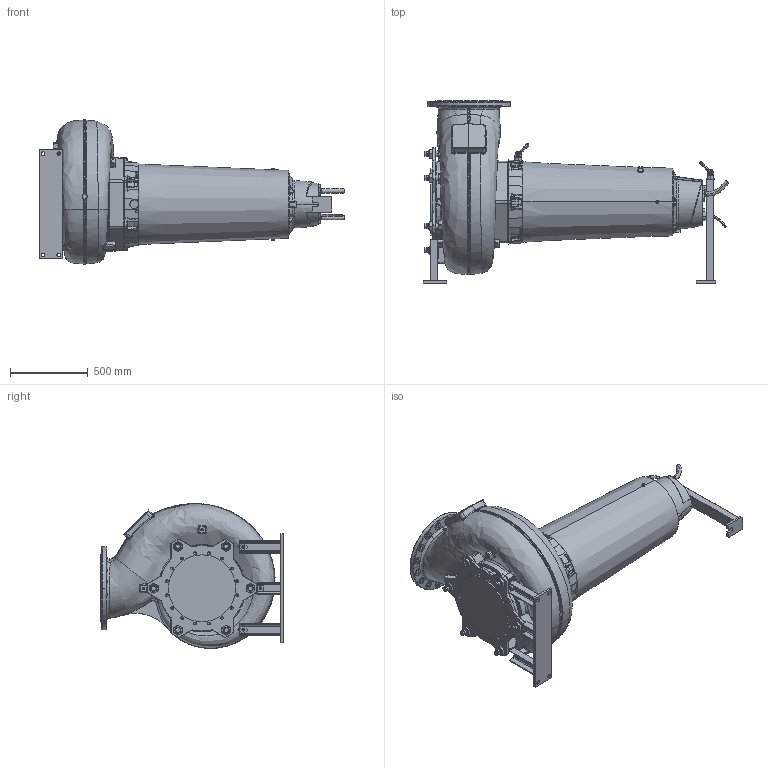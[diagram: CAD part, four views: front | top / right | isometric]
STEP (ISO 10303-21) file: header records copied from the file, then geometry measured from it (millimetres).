
FILE_DESCRIPTION (( 'STEP AP214' ), '1' );
FILE_NAME ('PE5_XFP356M-CB2_DRY HA_B_NG2.STEP', '2017-02-02T12:09:05', ( '' ), ( '' ), 'SwSTEP 2.0', 'SolidWorks 2017', '' );
FILE_SCHEMA (( 'AUTOMOTIVE_DESIGN' ));
Length unit declared in the file: millimetre
Products named in the file (1): PE5_XFP356M-CB2_DRY HA_B_NG2
Bounding box: 1961.08 x 1171 x 929.69 mm (x, y, z)
Volume: 481075659.5 mm3; surface area: 6062966.7 mm2
Topology: 20 solids, 28 shells, 2520 faces, 6290 edges, 3829 vertices
Faces by surface type: bspline 679, plane 611, cylinder 582, cone 420, torus 206, sphere 22
Entity records: 175769 total; most frequent: CARTESIAN_POINT 94239, ORIENTED_EDGE 12396, DIRECTION 9615, EDGE_CURVE 6198, AXIS2_PLACEMENT_3D 3858, VERTEX_POINT 3825, EDGE_LOOP 2707, UNCERTAINTY_MEASURE_WITH_UNIT 2527
